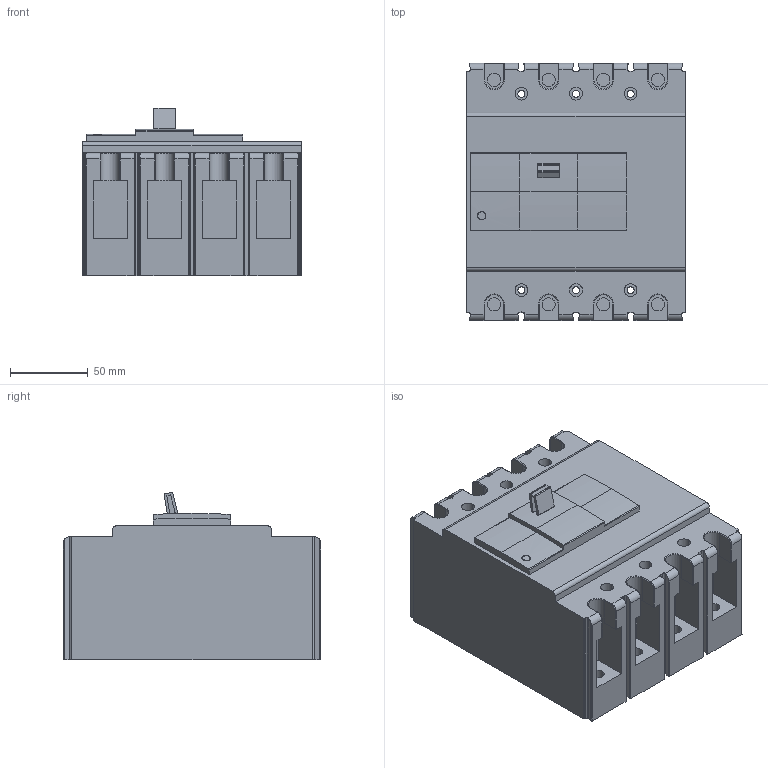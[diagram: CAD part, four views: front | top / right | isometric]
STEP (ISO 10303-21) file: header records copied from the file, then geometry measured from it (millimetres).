
FILE_DESCRIPTION (( 'STEP AP203' ), '1' );
FILE_NAME ('204F.STEP', '2018-01-04T00:51:36', ( '' ), ( '' ), 'SwSTEP 2.0', 'SolidWorks 2015', '' );
FILE_SCHEMA (( 'CONFIG_CONTROL_DESIGN' ));
Length unit declared in the file: millimetre
Products named in the file (1): 204F
Bounding box: 140 x 165 x 107.59 mm (x, y, z)
Volume: 1754845.2 mm3; surface area: 137471.8 mm2
Topology: 1 solids, 1 shells, 353 faces, 935 edges, 602 vertices
Faces by surface type: cylinder 167, plane 158, torus 28
Entity records: 11270 total; most frequent: CARTESIAN_POINT 2265, DIRECTION 1913, ORIENTED_EDGE 1870, EDGE_CURVE 935, AXIS2_PLACEMENT_3D 684, VERTEX_POINT 602, VECTOR 545, LINE 545
